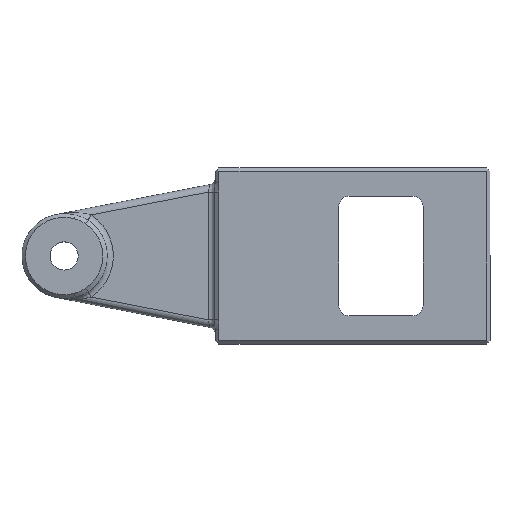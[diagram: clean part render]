
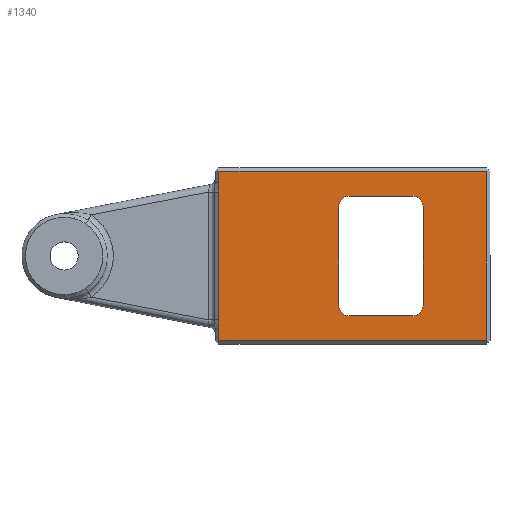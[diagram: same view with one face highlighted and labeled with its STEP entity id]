
A CAD part, top view. The second image highlights one B-rep face of the part: STEP entity #1340.
In plain terms, the highlighted planar face has unit normal (0, 0, 1).
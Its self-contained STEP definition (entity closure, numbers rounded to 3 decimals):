
#53=B_SPLINE_CURVE_WITH_KNOTS('',3,(#2121,#2122,#2123,#2124,#2125),
 .UNSPECIFIED.,.F.,.F.,(4,1,4),(-0.584,-0.469,-0.315),
 .UNSPECIFIED.);
#55=B_SPLINE_CURVE_WITH_KNOTS('',3,(#2157,#2158,#2159,#2160,#2161),
 .UNSPECIFIED.,.F.,.F.,(4,1,4),(-4.485,-4.331,-4.216),
 .UNSPECIFIED.);
#91=FACE_BOUND('',#248,.T.);
#105=CIRCLE('',#1447,3.);
#106=CIRCLE('',#1448,3.);
#107=CIRCLE('',#1449,3.);
#108=CIRCLE('',#1450,3.);
#164=FACE_OUTER_BOUND('',#247,.T.);
#247=EDGE_LOOP('',(#1002,#1003,#1004,#1005,#1006,#1007,#1008,#1009));
#248=EDGE_LOOP('',(#1010,#1011,#1012,#1013,#1014,#1015,#1016,#1017));
#333=LINE('',#1939,#456);
#347=LINE('',#1971,#470);
#371=LINE('',#2090,#494);
#374=LINE('',#2097,#497);
#377=LINE('',#2133,#500);
#380=LINE('',#2168,#503);
#381=LINE('',#2173,#504);
#382=LINE('',#2177,#505);
#383=LINE('',#2181,#506);
#384=LINE('',#2184,#507);
#456=VECTOR('',#1570,10.);
#470=VECTOR('',#1596,10.);
#494=VECTOR('',#1640,10.);
#497=VECTOR('',#1645,10.);
#500=VECTOR('',#1650,10.);
#503=VECTOR('',#1655,10.);
#504=VECTOR('',#1658,10.);
#505=VECTOR('',#1661,10.);
#506=VECTOR('',#1664,10.);
#507=VECTOR('',#1667,10.);
#575=VERTEX_POINT('',#1936);
#576=VERTEX_POINT('',#1938);
#588=VERTEX_POINT('',#1970);
#612=VERTEX_POINT('',#2087);
#613=VERTEX_POINT('',#2089);
#615=VERTEX_POINT('',#2094);
#616=VERTEX_POINT('',#2096);
#618=VERTEX_POINT('',#2132);
#620=VERTEX_POINT('',#2169);
#621=VERTEX_POINT('',#2170);
#622=VERTEX_POINT('',#2172);
#623=VERTEX_POINT('',#2174);
#624=VERTEX_POINT('',#2176);
#625=VERTEX_POINT('',#2178);
#626=VERTEX_POINT('',#2180);
#627=VERTEX_POINT('',#2182);
#701=EDGE_CURVE('',#575,#576,#333,.T.);
#717=EDGE_CURVE('',#576,#588,#347,.T.);
#749=EDGE_CURVE('',#612,#613,#371,.T.);
#752=EDGE_CURVE('',#615,#616,#374,.T.);
#755=EDGE_CURVE('',#616,#612,#53,.T.);
#757=EDGE_CURVE('',#588,#618,#377,.T.);
#760=EDGE_CURVE('',#618,#615,#55,.T.);
#762=EDGE_CURVE('',#613,#575,#380,.T.);
#763=EDGE_CURVE('',#620,#621,#105,.T.);
#764=EDGE_CURVE('',#621,#622,#381,.T.);
#765=EDGE_CURVE('',#622,#623,#106,.T.);
#766=EDGE_CURVE('',#623,#624,#382,.T.);
#767=EDGE_CURVE('',#624,#625,#107,.T.);
#768=EDGE_CURVE('',#625,#626,#383,.T.);
#769=EDGE_CURVE('',#626,#627,#108,.T.);
#770=EDGE_CURVE('',#627,#620,#384,.T.);
#1002=ORIENTED_EDGE('',*,*,#701,.F.);
#1003=ORIENTED_EDGE('',*,*,#762,.F.);
#1004=ORIENTED_EDGE('',*,*,#749,.F.);
#1005=ORIENTED_EDGE('',*,*,#755,.F.);
#1006=ORIENTED_EDGE('',*,*,#752,.F.);
#1007=ORIENTED_EDGE('',*,*,#760,.F.);
#1008=ORIENTED_EDGE('',*,*,#757,.F.);
#1009=ORIENTED_EDGE('',*,*,#717,.F.);
#1010=ORIENTED_EDGE('',*,*,#763,.T.);
#1011=ORIENTED_EDGE('',*,*,#764,.T.);
#1012=ORIENTED_EDGE('',*,*,#765,.T.);
#1013=ORIENTED_EDGE('',*,*,#766,.T.);
#1014=ORIENTED_EDGE('',*,*,#767,.T.);
#1015=ORIENTED_EDGE('',*,*,#768,.T.);
#1016=ORIENTED_EDGE('',*,*,#769,.T.);
#1017=ORIENTED_EDGE('',*,*,#770,.T.);
#1297=PLANE('',#1446);
#1340=ADVANCED_FACE('',(#164,#91),#1297,.T.);
#1446=AXIS2_PLACEMENT_3D('',#2167,#1653,#1654);
#1447=AXIS2_PLACEMENT_3D('',#2171,#1656,#1657);
#1448=AXIS2_PLACEMENT_3D('',#2175,#1659,#1660);
#1449=AXIS2_PLACEMENT_3D('',#2179,#1662,#1663);
#1450=AXIS2_PLACEMENT_3D('',#2183,#1665,#1666);
#1570=DIRECTION('',(0.,-1.,0.));
#1596=DIRECTION('',(-1.,0.,0.));
#1640=DIRECTION('',(0.,1.,0.));
#1645=DIRECTION('',(0.,1.,0.));
#1650=DIRECTION('',(0.,1.,0.));
#1653=DIRECTION('center_axis',(0.,0.,1.));
#1654=DIRECTION('ref_axis',(1.,0.,0.));
#1655=DIRECTION('',(1.,0.,0.));
#1656=DIRECTION('center_axis',(0.,0.,-1.));
#1657=DIRECTION('ref_axis',(1.,0.,0.));
#1658=DIRECTION('',(0.,1.,0.));
#1659=DIRECTION('center_axis',(0.,0.,-1.));
#1660=DIRECTION('ref_axis',(0.,-1.,0.));
#1661=DIRECTION('',(1.,0.,0.));
#1662=DIRECTION('center_axis',(0.,0.,-1.));
#1663=DIRECTION('ref_axis',(-1.,0.,0.));
#1664=DIRECTION('',(0.,-1.,0.));
#1665=DIRECTION('center_axis',(0.,0.,-1.));
#1666=DIRECTION('ref_axis',(0.,1.,0.));
#1667=DIRECTION('',(-1.,0.,0.));
#1936=CARTESIAN_POINT('',(-1.,24.,6.));
#1938=CARTESIAN_POINT('',(-1.,-24.,6.));
#1939=CARTESIAN_POINT('',(-1.,-12.,6.));
#1970=CARTESIAN_POINT('',(-77.,-24.,6.));
#1971=CARTESIAN_POINT('',(-58.,-24.,6.));
#2087=CARTESIAN_POINT('',(-77.,20.852,6.));
#2089=CARTESIAN_POINT('',(-77.,24.,6.));
#2090=CARTESIAN_POINT('',(-77.,12.,6.));
#2094=CARTESIAN_POINT('',(-77.,-18.157,6.));
#2096=CARTESIAN_POINT('',(-77.,18.157,6.));
#2097=CARTESIAN_POINT('',(-77.,12.,6.));
#2121=CARTESIAN_POINT('Ctrl Pts',(-77.,18.157,6.));
#2122=CARTESIAN_POINT('Ctrl Pts',(-77.,18.542,6.));
#2123=CARTESIAN_POINT('Ctrl Pts',(-77.,19.44,6.));
#2124=CARTESIAN_POINT('Ctrl Pts',(-77.,20.339,6.));
#2125=CARTESIAN_POINT('Ctrl Pts',(-77.,20.852,6.));
#2132=CARTESIAN_POINT('',(-77.,-20.852,6.));
#2133=CARTESIAN_POINT('',(-77.,12.,6.));
#2157=CARTESIAN_POINT('Ctrl Pts',(-77.,-20.852,6.));
#2158=CARTESIAN_POINT('Ctrl Pts',(-77.,-20.339,6.));
#2159=CARTESIAN_POINT('Ctrl Pts',(-77.,-19.44,6.));
#2160=CARTESIAN_POINT('Ctrl Pts',(-77.,-18.542,6.));
#2161=CARTESIAN_POINT('Ctrl Pts',(-77.,-18.157,6.));
#2167=CARTESIAN_POINT('Origin',(-39.,0.,6.));
#2168=CARTESIAN_POINT('',(-20.,24.,6.));
#2169=CARTESIAN_POINT('',(-40.,-17.,6.));
#2170=CARTESIAN_POINT('',(-43.,-14.,6.));
#2171=CARTESIAN_POINT('Origin',(-40.,-14.,6.));
#2172=CARTESIAN_POINT('',(-43.,14.,6.));
#2173=CARTESIAN_POINT('',(-43.,-14.,6.));
#2174=CARTESIAN_POINT('',(-40.,17.,6.));
#2175=CARTESIAN_POINT('Origin',(-40.,14.,6.));
#2176=CARTESIAN_POINT('',(-22.,17.,6.));
#2177=CARTESIAN_POINT('',(-40.,17.,6.));
#2178=CARTESIAN_POINT('',(-19.,14.,6.));
#2179=CARTESIAN_POINT('Origin',(-22.,14.,6.));
#2180=CARTESIAN_POINT('',(-19.,-14.,6.));
#2181=CARTESIAN_POINT('',(-19.,14.,6.));
#2182=CARTESIAN_POINT('',(-22.,-17.,6.));
#2183=CARTESIAN_POINT('Origin',(-22.,-14.,6.));
#2184=CARTESIAN_POINT('',(-22.,-17.,6.));
